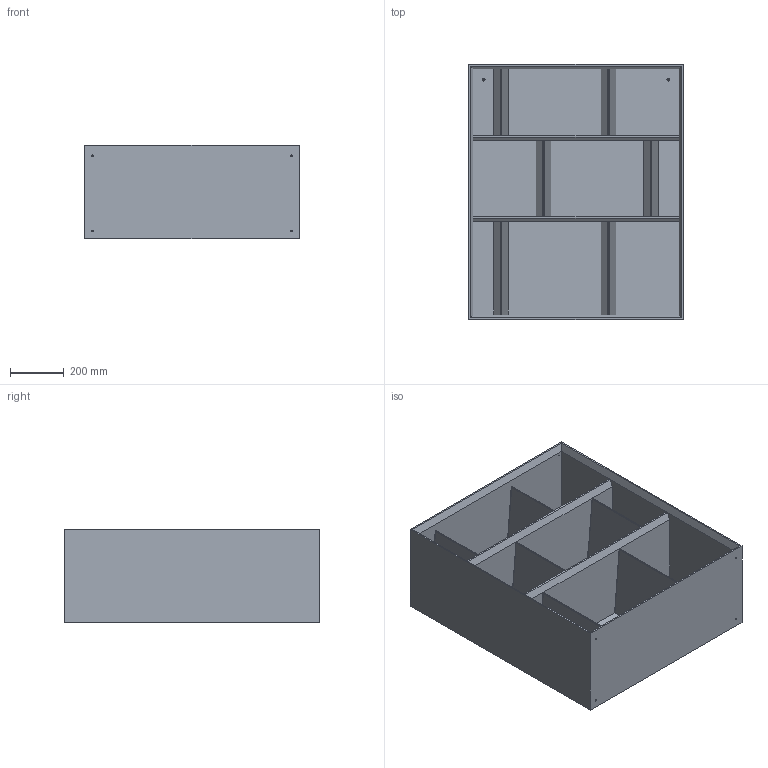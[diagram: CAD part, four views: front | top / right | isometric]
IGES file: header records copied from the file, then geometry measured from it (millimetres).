
Start section: SolidWorks IGES file using analytic representation for surfaces
Global section: file name: Y:\eforma\TECNICO\SOLIDWORKS\E-FORMA\08-LIBRERIE\LIBRERIA BENDY\02 parts\BL10S_Bendy A_80x35x95h.IGS; native system: SolidWorks 2022; preprocessor: SolidWorks 2022; author: eforma.tech; date: 240806.102521; units: millimetre
Bounding box: 800 x 950 x 350 mm (x, y, z)
Volume: 37207290.5 mm3; surface area: 7093705.1 mm2
Topology: 13 solids, 13 shells, 348 faces, 842 edges, 518 vertices
Faces by surface type: plane 220, revolution 128
